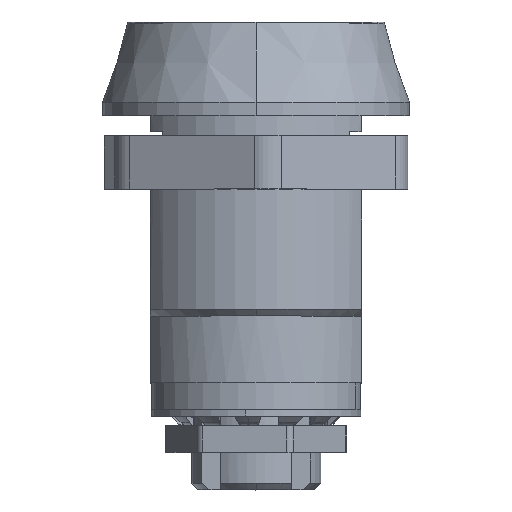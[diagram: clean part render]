
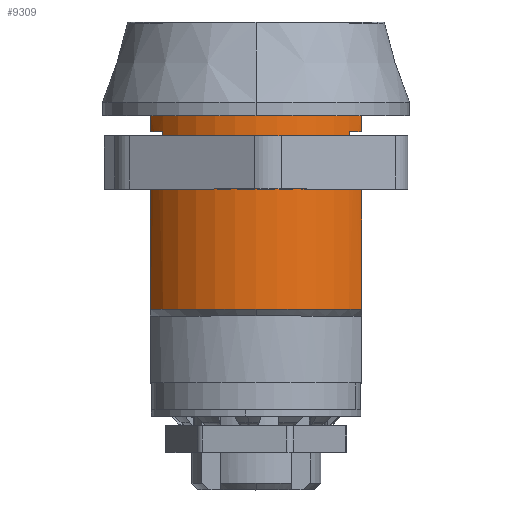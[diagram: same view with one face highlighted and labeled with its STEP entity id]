
A CAD part, top view. The second image highlights one B-rep face of the part: STEP entity #9309.
In plain terms, the highlighted cylindrical face has radius 9.35 mm (diameter 18.7 mm), a partial arc.
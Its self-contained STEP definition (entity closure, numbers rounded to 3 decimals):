
#1001 = EDGE_CURVE ( 'NONE', #9730, #9507, #6172, .T. ) ;
#1009 = VERTEX_POINT ( 'NONE', #6217 ) ;
#1015 = VERTEX_POINT ( 'NONE', #6199 ) ;
#1023 = EDGE_CURVE ( 'NONE', #1015, #1009, #6194, .T. ) ;
#1024 = EDGE_CURVE ( 'NONE', #1015, #1025, #6189, .T. ) ;
#1025 = VERTEX_POINT ( 'NONE', #6247 ) ;
#1236 = EDGE_CURVE ( 'NONE', #1009, #10426, #6885, .T. ) ;
#1241 = EDGE_CURVE ( 'NONE', #9507, #1247, #6927, .T. ) ;
#1242 = VERTEX_POINT ( 'NONE', #6922 ) ;
#1244 = EDGE_CURVE ( 'NONE', #1242, #1025, #6921, .T. ) ;
#1247 = VERTEX_POINT ( 'NONE', #6915 ) ;
#5678 = DIRECTION ( 'NONE',  ( 0., 0., -1. ) ) ;
#6166 = DIRECTION ( 'NONE',  ( 0., -1., 0. ) ) ;
#6167 = VECTOR ( 'NONE', #6166, 1000. ) ;
#6168 = CARTESIAN_POINT ( 'NONE',  ( -7., 0., 6.199 ) ) ;
#6172 = LINE ( 'NONE', #6168, #6167 ) ;
#6186 = DIRECTION ( 'NONE',  ( 0., -1., 0. ) ) ;
#6187 = CARTESIAN_POINT ( 'NONE',  ( 0., 18.8, 0. ) ) ;
#6188 = AXIS2_PLACEMENT_3D ( 'NONE', #6187, #6186, #5678 ) ;
#6189 = CIRCLE ( 'NONE', #6188, 9.35 ) ;
#6191 = DIRECTION ( 'NONE',  ( 0., 1., 0. ) ) ;
#6192 = VECTOR ( 'NONE', #6191, 1000. ) ;
#6193 = CARTESIAN_POINT ( 'NONE',  ( 7.9, 46.138, 5.001 ) ) ;
#6194 = LINE ( 'NONE', #6193, #6192 ) ;
#6199 = CARTESIAN_POINT ( 'NONE',  ( 7.9, 18.8, 5.001 ) ) ;
#6217 = CARTESIAN_POINT ( 'NONE',  ( 7.9, 20., 5.001 ) ) ;
#6247 = CARTESIAN_POINT ( 'NONE',  ( 7., 18.8, 6.199 ) ) ;
#6881 = DIRECTION ( 'NONE',  ( 0., 0., -1. ) ) ;
#6882 = DIRECTION ( 'NONE',  ( 0., -1., 0. ) ) ;
#6883 = CARTESIAN_POINT ( 'NONE',  ( 0., 20., 0. ) ) ;
#6884 = AXIS2_PLACEMENT_3D ( 'NONE', #6883, #6882, #6881 ) ;
#6885 = CIRCLE ( 'NONE', #6884, 9.35 ) ;
#6915 = CARTESIAN_POINT ( 'NONE',  ( -7.9, 16.7, 5.001 ) ) ;
#6918 = DIRECTION ( 'NONE',  ( 0., 1., 0. ) ) ;
#6919 = VECTOR ( 'NONE', #6918, 1000. ) ;
#6920 = CARTESIAN_POINT ( 'NONE',  ( 7., 0., 6.199 ) ) ;
#6921 = LINE ( 'NONE', #6920, #6919 ) ;
#6922 = CARTESIAN_POINT ( 'NONE',  ( 7., 16.7, 6.199 ) ) ;
#6923 = DIRECTION ( 'NONE',  ( 0., 0., -1. ) ) ;
#6924 = DIRECTION ( 'NONE',  ( 0., -1., 0. ) ) ;
#6925 = CARTESIAN_POINT ( 'NONE',  ( 0., 16.7, 0. ) ) ;
#6926 = AXIS2_PLACEMENT_3D ( 'NONE', #6925, #6924, #6923 ) ;
#6927 = CIRCLE ( 'NONE', #6926, 9.35 ) ;
#8720 = ORIENTED_EDGE ( 'NONE', *, *, #9733, .F. ) ;
#8721 = ORIENTED_EDGE ( 'NONE', *, *, #1241, .T. ) ;
#8722 = ORIENTED_EDGE ( 'NONE', *, *, #1001, .T. ) ;
#8726 = ORIENTED_EDGE ( 'NONE', *, *, #8746, .F. ) ;
#8727 = ORIENTED_EDGE ( 'NONE', *, *, #9707, .F. ) ;
#8728 = EDGE_CURVE ( 'NONE', #1247, #9701, #14685, .T. ) ;
#8729 = ORIENTED_EDGE ( 'NONE', *, *, #1024, .F. ) ;
#8731 = ORIENTED_EDGE ( 'NONE', *, *, #8740, .T. ) ;
#8732 = VERTEX_POINT ( 'NONE', #14681 ) ;
#8735 = ORIENTED_EDGE ( 'NONE', *, *, #8728, .T. ) ;
#8739 = VERTEX_POINT ( 'NONE', #14680 ) ;
#8740 = EDGE_CURVE ( 'NONE', #8732, #8739, #14679, .T. ) ;
#8741 = EDGE_CURVE ( 'NONE', #8732, #9714, #14675, .T. ) ;
#8742 = ORIENTED_EDGE ( 'NONE', *, *, #1244, .T. ) ;
#8743 = ORIENTED_EDGE ( 'NONE', *, *, #8741, .F. ) ;
#8746 = EDGE_CURVE ( 'NONE', #1242, #8739, #14670, .T. ) ;
#8747 = ORIENTED_EDGE ( 'NONE', *, *, #1023, .T. ) ;
#8752 = ORIENTED_EDGE ( 'NONE', *, *, #1236, .T. ) ;
#9276 = EDGE_LOOP ( 'NONE', ( #9284, #8720, #8722, #8721, #8735, #8727, #8743, #8731, #8726, #8742, #8729, #8747, #8752 ) ) ;
#9284 = ORIENTED_EDGE ( 'NONE', *, *, #10317, .T. ) ;
#9309 = ADVANCED_FACE ( 'NONE', ( #15682 ), #15680, .T. ) ;
#9507 = VERTEX_POINT ( 'NONE', #16099 ) ;
#9701 = VERTEX_POINT ( 'NONE', #16510 ) ;
#9707 = EDGE_CURVE ( 'NONE', #9714, #9701, #16502, .T. ) ;
#9712 = VERTEX_POINT ( 'NONE', #16550 ) ;
#9714 = VERTEX_POINT ( 'NONE', #16541 ) ;
#9730 = VERTEX_POINT ( 'NONE', #16575 ) ;
#9733 = EDGE_CURVE ( 'NONE', #9730, #9712, #16568, .T. ) ;
#10317 = EDGE_CURVE ( 'NONE', #10426, #9712, #16674, .T. ) ;
#10426 = VERTEX_POINT ( 'NONE', #16654 ) ;
#14666 = DIRECTION ( 'NONE',  ( 0., 0., -1. ) ) ;
#14667 = DIRECTION ( 'NONE',  ( 0., 1., 0. ) ) ;
#14668 = CARTESIAN_POINT ( 'NONE',  ( 0., 16.7, 0. ) ) ;
#14669 = AXIS2_PLACEMENT_3D ( 'NONE', #14668, #14667, #14666 ) ;
#14670 = CIRCLE ( 'NONE', #14669, 9.35 ) ;
#14671 = DIRECTION ( 'NONE',  ( 0., 0., 1. ) ) ;
#14672 = DIRECTION ( 'NONE',  ( 0., -1., 0. ) ) ;
#14673 = CARTESIAN_POINT ( 'NONE',  ( 0., 5.5, 0. ) ) ;
#14674 = AXIS2_PLACEMENT_3D ( 'NONE', #14673, #14672, #14671 ) ;
#14675 = CIRCLE ( 'NONE', #14674, 9.35 ) ;
#14676 = DIRECTION ( 'NONE',  ( 0., 1., 0. ) ) ;
#14677 = VECTOR ( 'NONE', #14676, 1000. ) ;
#14678 = CARTESIAN_POINT ( 'NONE',  ( 7.9, 46.138, 5.001 ) ) ;
#14679 = LINE ( 'NONE', #14678, #14677 ) ;
#14680 = CARTESIAN_POINT ( 'NONE',  ( 7.9, 16.7, 5.001 ) ) ;
#14681 = CARTESIAN_POINT ( 'NONE',  ( 7.9, 5.5, 5.001 ) ) ;
#14682 = DIRECTION ( 'NONE',  ( 0., -1., 0. ) ) ;
#14683 = VECTOR ( 'NONE', #14682, 1000. ) ;
#14684 = CARTESIAN_POINT ( 'NONE',  ( -7.9, 46.138, 5.001 ) ) ;
#14685 = LINE ( 'NONE', #14684, #14683 ) ;
#15676 = DIRECTION ( 'NONE',  ( 0., 0., -1. ) ) ;
#15677 = DIRECTION ( 'NONE',  ( 0., -1., 0. ) ) ;
#15678 = CARTESIAN_POINT ( 'NONE',  ( 0., 0., 0. ) ) ;
#15679 = AXIS2_PLACEMENT_3D ( 'NONE', #15678, #15677, #15676 ) ;
#15680 = CYLINDRICAL_SURFACE ( 'NONE', #15679, 9.35 ) ;
#15682 = FACE_OUTER_BOUND ( 'NONE', #9276, .T. ) ;
#16099 = CARTESIAN_POINT ( 'NONE',  ( -7., 16.7, 6.199 ) ) ;
#16498 = DIRECTION ( 'NONE',  ( 0., 0., 1. ) ) ;
#16499 = DIRECTION ( 'NONE',  ( 0., -1., 0. ) ) ;
#16500 = CARTESIAN_POINT ( 'NONE',  ( 0., 5.5, 0. ) ) ;
#16501 = AXIS2_PLACEMENT_3D ( 'NONE', #16500, #16499, #16498 ) ;
#16502 = CIRCLE ( 'NONE', #16501, 9.35 ) ;
#16510 = CARTESIAN_POINT ( 'NONE',  ( -7.9, 5.5, 5.001 ) ) ;
#16541 = CARTESIAN_POINT ( 'NONE',  ( 0., 5.5, 9.35 ) ) ;
#16550 = CARTESIAN_POINT ( 'NONE',  ( -7.9, 18.8, 5.001 ) ) ;
#16564 = DIRECTION ( 'NONE',  ( 0., 0., -1. ) ) ;
#16565 = DIRECTION ( 'NONE',  ( 0., -1., 0. ) ) ;
#16566 = CARTESIAN_POINT ( 'NONE',  ( 0., 18.8, 0. ) ) ;
#16567 = AXIS2_PLACEMENT_3D ( 'NONE', #16566, #16565, #16564 ) ;
#16568 = CIRCLE ( 'NONE', #16567, 9.35 ) ;
#16575 = CARTESIAN_POINT ( 'NONE',  ( -7., 18.8, 6.199 ) ) ;
#16654 = CARTESIAN_POINT ( 'NONE',  ( -7.9, 20., 5.001 ) ) ;
#16671 = DIRECTION ( 'NONE',  ( 0., -1., 0. ) ) ;
#16672 = VECTOR ( 'NONE', #16671, 1000. ) ;
#16673 = CARTESIAN_POINT ( 'NONE',  ( -7.9, 46.138, 5.001 ) ) ;
#16674 = LINE ( 'NONE', #16673, #16672 ) ;
